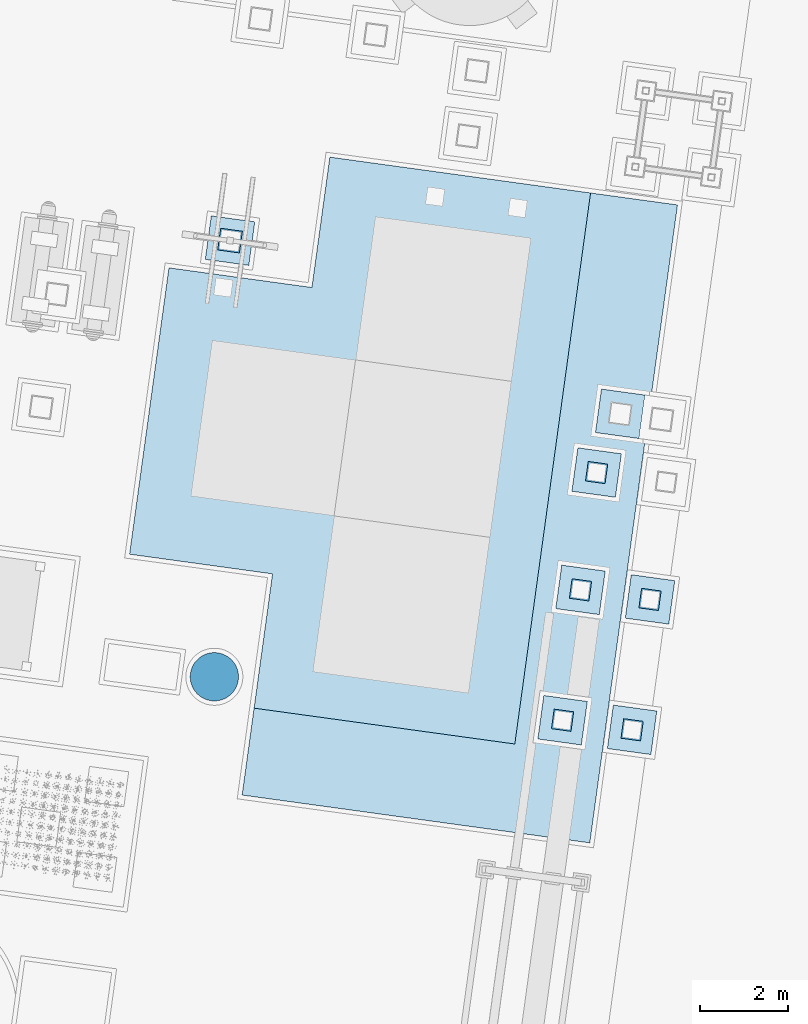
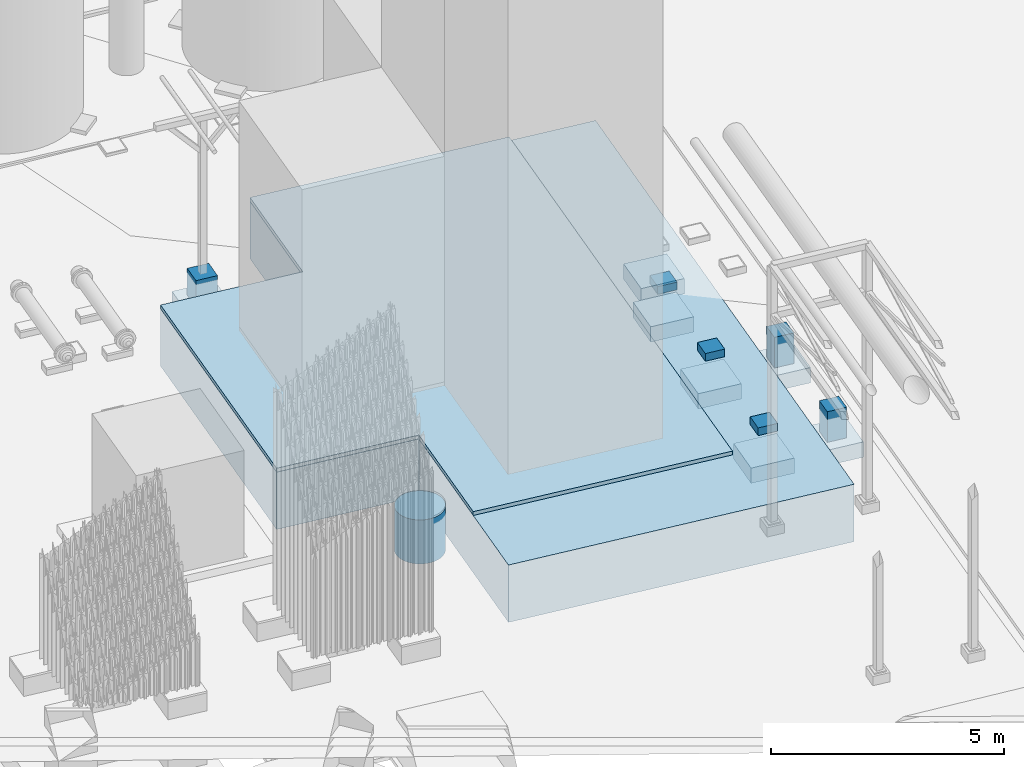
# Not in any storey, part 4 of 75: 16 footings.
"""IFC4 model written with IfcOpenShell, lengths in metres."""

from ifc_helpers import new_model, si_unit, direction, origin, origin_with_axes, place, context, subcontext, project, spatial, triangles, material, element, save


model = new_model("IFC4")

# Units and contexts
model_context = context("Model", 3, precision=1e-05, world=origin_with_axes(), true_north=direction((0.0, 1.0)))
body_context = subcontext(model_context, "Body", "Model", "MODEL_VIEW")
ifc_project = project(units=[si_unit("AREAUNIT", "SQUARE_METRE"), si_unit("VOLUMEUNIT", "CUBIC_METRE"), si_unit("LENGTHUNIT", "METRE")], contexts=[model_context])

# Site
site_placement = place(None, origin_with_axes())
site = spatial("IfcSite", under=ifc_project, at=site_placement, Name="Parcela industrial Jinhong")

# Footings
ifc_material_1 = material(Name="Hormigón HA-40", Category="Material documentado")
footing_1_placement = place(None, origin())
element("IfcFooting", 1, at=footing_1_placement, inside=site, material=ifc_material_1, Name="Cimentación de las cajas frías · cuerpo de hormigón", PredefinedType="PAD_FOOTING", context=body_context, shape_type="Tessellation", body=[
    triangles([(52.23586, 41.442184, -0.4), (48.97652, 41.890295, -0.4), (49.874104, 48.418882, -0.4), (53.133444, 47.970771, -0.4), (53.542055, 50.942813, -0.4), (59.48614, 50.12559, -0.4), (61.467502, 49.853182, -0.4), (59.468028, 35.309988, -0.4), (57.486667, 35.582395, -0.4), (51.542582, 36.399619, -0.4), (51.81499, 38.380981, -0.4), (52.23586, 41.442184, 1.1), (48.97652, 41.890295, 1.1), (49.874104, 48.418882, 1.1), (53.133444, 47.970771, 1.1), (53.542055, 50.942813, 1.1), (59.48614, 50.12559, 1.1), (61.467502, 49.853182, 1.1), (59.468028, 35.309988, 1.1), (57.486667, 35.582395, 1.1), (51.542582, 36.399619, 1.1), (51.81499, 38.380981, 1.1)], [[1, 2, 3], [4, 5, 6], [1, 7, 8], [9, 10, 11], [1, 3, 4], [7, 1, 6], [1, 9, 11], [6, 1, 4], [9, 1, 8], [14, 13, 12], [17, 16, 15], [19, 18, 12], [22, 21, 20], [15, 14, 12], [17, 12, 18], [22, 20, 12], [15, 12, 17], [19, 12, 20], [12, 13, 1], [1, 13, 2], [13, 14, 2], [2, 14, 3], [14, 15, 3], [3, 15, 4], [15, 16, 4], [4, 16, 5], [16, 17, 5], [5, 17, 6], [17, 18, 6], [6, 18, 7], [18, 19, 7], [7, 19, 8], [19, 20, 8], [8, 20, 9], [20, 21, 9], [9, 21, 10], [22, 12, 11], [11, 12, 1], [21, 22, 10], [10, 22, 11]], closed=True),
])
footing_2_placement = place(None, origin())
element("IfcFooting", 2, at=footing_2_placement, inside=site, material=ifc_material_1, Name="Cimentación de las cajas frías · plataforma irregular elevada 100 mm", PredefinedType="PAD_FOOTING", context=body_context, shape_type="Tessellation", body=[
    triangles([(52.23586, 41.442184, 1.1), (48.97652, 41.890295, 1.1), (49.874104, 48.418882, 1.1), (53.133444, 47.970771, 1.1), (53.542055, 50.942813, 1.1), (59.48614, 50.12559, 1.1), (57.759074, 37.563757, 1.1), (51.81499, 38.380981, 1.1), (52.23586, 41.442184, 1.2), (48.97652, 41.890295, 1.2), (49.874104, 48.418882, 1.2), (53.133444, 47.970771, 1.2), (53.542055, 50.942813, 1.2), (59.48614, 50.12559, 1.2), (57.759074, 37.563757, 1.2), (51.81499, 38.380981, 1.2)], [[1, 2, 3], [4, 5, 6], [1, 7, 8], [1, 3, 4], [7, 1, 6], [1, 4, 6], [11, 10, 9], [14, 13, 12], [16, 15, 9], [12, 11, 9], [14, 9, 15], [14, 12, 9], [9, 10, 1], [1, 10, 2], [10, 11, 2], [2, 11, 3], [11, 12, 3], [3, 12, 4], [12, 13, 4], [4, 13, 5], [13, 14, 5], [5, 14, 6], [14, 15, 6], [6, 15, 7], [16, 9, 8], [8, 9, 1], [15, 16, 7], [7, 16, 8]], closed=True),
])
footing_3_placement = place(None, origin())
element("IfcFooting", 3, at=footing_3_placement, inside=site, Name="Cimentación del evaporador de residuos · apoyo circular · cuerpo de hormigón", PredefinedType="PAD_FOOTING", context=body_context, shape_type="Tessellation", body=[
    triangles([(51.451135, 39.003477, 0.1), (51.447812, 38.985789, 0.1), (51.443912, 38.968218, 0.1), (51.428794, 38.916405, 0.1), (51.439438, 38.950785, 0.1), (51.434398, 38.933508, 0.1), (51.422634, 38.899494, 0.1), (51.400882, 38.850096, 0.1), (51.415923, 38.882793, 0.1), (51.40867, 38.866322, 0.1), (51.383734, 38.818453, 0.1), (51.392567, 38.834134, 0.1), (51.364554, 38.787999, 0.1), (51.374394, 38.803069, 0.1), (51.354226, 38.773258, 0.1), (51.343423, 38.758863, 0.1), (51.332154, 38.74483, 0.1), (51.320431, 38.731174, 0.1), (51.308268, 38.717908, 0.1), (51.295678, 38.705047, 0.1), (51.282673, 38.692604, 0.1), (51.269269, 38.680594, 0.1), (51.255479, 38.66903, 0.1), (51.211943, 38.637126, 0.1), (51.241317, 38.657922, 0.1), (51.2268, 38.647283, 0.1), (51.165488, 38.609643, 0.1), (51.196761, 38.62746, 0.1), (51.18127, 38.618295, 0.1), (51.116566, 38.586846, 0.1), (51.149432, 38.601511, 0.1), (51.133119, 38.593909, 0.1), (51.048309, 38.564111, 0.1), (51.099789, 38.580327, 0.1), (51.082808, 38.574361, 0.1), (51.065643, 38.568953, 0.1), (51.013211, 38.556139, 0.1), (51.030825, 38.559838, 0.1), (50.977668, 38.55048, 0.1), (50.995486, 38.553018, 0.1), (50.94183, 38.547158, 0.1), (50.959777, 38.548525, 0.1), (50.851959, 38.549143, 0.1), (50.92385, 38.546378, 0.1), (50.887859, 38.546584, 0.1), (50.905853, 38.546186, 0.1), (50.869888, 38.54757, 0.1), (50.834092, 38.551302, 0.1), (50.816304, 38.554045, 0.1), (50.798616, 38.557368, 0.1), (50.781045, 38.561269, 0.1), (50.763612, 38.565742, 0.1), (50.746334, 38.570783, 0.1), (50.662923, 38.604299, 0.1), (50.712321, 38.582547, 0.1), (50.69562, 38.589257, 0.1), (50.679148, 38.59651, 0.1), (50.63128, 38.621446, 0.1), (50.646961, 38.612613, 0.1), (50.586086, 38.650954, 0.1), (50.615896, 38.630787, 0.1), (50.600825, 38.640626, 0.1), (50.544, 38.684749, 0.1), (50.571691, 38.661758, 0.1), (50.557657, 38.673027, 0.1), (50.530735, 38.696912, 0.1), (50.493422, 38.735912, 0.1), (50.517873, 38.709502, 0.1), (50.505431, 38.722507, 0.1), (50.470749, 38.763864, 0.1), (50.481856, 38.749702, 0.1), (50.449953, 38.793238, 0.1), (50.46011, 38.778381, 0.1), (50.42247, 38.839692, 0.1), (50.440286, 38.80842, 0.1), (50.431122, 38.823911, 0.1), (50.414338, 38.855748, 0.1), (50.406737, 38.872062, 0.1), (50.387188, 38.922372, 0.1), (50.399673, 38.888615, 0.1), (50.393154, 38.905391, 0.1), (50.376938, 38.956873, 0.1), (50.365846, 39.009695, 0.1), (50.381781, 38.939538, 0.1), (50.368966, 38.99197, 0.1), (50.372664, 38.974356, 0.1), (50.359985, 39.06335, 0.1), (50.363307, 39.027513, 0.1), (50.361352, 39.045405, 0.1), (50.36413, 39.171089, 0.1), (50.359204, 39.081331, 0.1), (50.35941, 39.117321, 0.1), (50.359013, 39.099328, 0.1), (50.360396, 39.135292, 0.1), (50.36197, 39.153221, 0.1), (50.370195, 39.206565, 0.1), (50.366872, 39.188877, 0.1), (50.374096, 39.224135, 0.1), (50.378569, 39.241569, 0.1), (50.38361, 39.258846, 0.1), (50.402085, 39.30956, 0.1), (50.389214, 39.275949, 0.1), (50.395373, 39.29286, 0.1), (51.217182, 39.551727, 0.1), (50.606065, 39.555228, 0.1), (50.434273, 39.373901, 0.1), (50.417125, 39.342257, 0.1), (50.42544, 39.35822, 0.1), (50.409338, 39.326032, 0.1), (50.443614, 39.389285, 0.1), (50.474585, 39.433489, 0.1), (50.453454, 39.404355, 0.1), (50.463781, 39.419096, 0.1), (50.485854, 39.447523, 0.1), (50.497576, 39.46118, 0.1), (50.509739, 39.474446, 0.1), (50.522329, 39.487307, 0.1), (50.535334, 39.49975, 0.1), (50.57669, 39.534432, 0.1), (50.548739, 39.51176, 0.1), (50.562528, 39.523324, 0.1), (50.591208, 39.545071, 0.1), (50.636737, 39.574059, 0.1), (50.621247, 39.564894, 0.1), (50.652519, 39.582711, 0.1), (50.701443, 39.605508, 0.1), (50.668575, 39.590843, 0.1), (50.684888, 39.598445, 0.1), (50.735199, 39.617992, 0.1), (50.718219, 39.612026, 0.1), (50.769699, 39.628243, 0.1), (50.752365, 39.623401, 0.1), (50.804796, 39.636215, 0.1), (50.787182, 39.632516, 0.1), (50.840339, 39.641874, 0.1), (50.822521, 39.639335, 0.1), (50.858231, 39.643829, 0.1), (50.983916, 39.641051, 0.1), (50.894158, 39.645976, 0.1), (50.930148, 39.64577, 0.1), (50.912154, 39.646168, 0.1), (50.948119, 39.644784, 0.1), (50.966048, 39.643211, 0.1), (51.019392, 39.634985, 0.1), (51.001703, 39.638309, 0.1), (51.036962, 39.631085, 0.1), (51.054395, 39.626612, 0.1), (51.071673, 39.621571, 0.1), (51.122387, 39.603097, 0.1), (51.088776, 39.615967, 0.1), (51.105687, 39.609807, 0.1), (51.155084, 39.588055, 0.1), (51.138859, 39.595844, 0.1), (51.186728, 39.570907, 0.1), (51.171046, 39.579741, 0.1), (51.202113, 39.561567, 0.1), (51.246317, 39.530595, 0.1), (51.231923, 39.5414, 0.1), (51.274007, 39.507605, 0.1), (51.26035, 39.519327, 0.1), (51.287273, 39.495442, 0.1), (51.300134, 39.482851, 0.1), (51.312576, 39.469847, 0.1), (51.347259, 39.42849, 0.1), (51.324586, 39.456442, 0.1), (51.336151, 39.442652, 0.1), (51.377721, 39.383934, 0.1), (51.357897, 39.413973, 0.1), (51.368056, 39.399116, 0.1), (51.386885, 39.368443, 0.1), (51.395537, 39.352662, 0.1), (51.418335, 39.303738, 0.1), (51.403669, 39.336606, 0.1), (51.411271, 39.320292, 0.1), (51.424853, 39.286963, 0.1), (51.441069, 39.235481, 0.1), (51.43082, 39.269982, 0.1), (51.436227, 39.252815, 0.1), (51.449041, 39.200384, 0.1), (51.445343, 39.217998, 0.1), (51.454701, 39.164841, 0.1), (51.452162, 39.182659, 0.1), (51.456655, 39.146949, 0.1), (51.458994, 39.093026, 0.1), (51.458024, 39.129004, 0.1), (51.458804, 39.111023, 0.1), (51.456037, 39.039133, 0.1), (51.458597, 39.075033, 0.1), (51.457611, 39.057061, 0.1), (51.453878, 39.021264, 0.1), (50.729231, 38.576387, 0.1), (50.876177, 39.645196, 0.1), (51.451135, 39.003477, 1.25), (51.447812, 38.985789, 1.25), (51.443912, 38.968218, 1.25), (51.428794, 38.916405, 1.25), (51.439438, 38.950785, 1.25), (51.434398, 38.933508, 1.25), (51.422634, 38.899494, 1.25), (51.400882, 38.850096, 1.25), (51.415923, 38.882793, 1.25), (51.40867, 38.866322, 1.25), (51.383734, 38.818453, 1.25), (51.392567, 38.834134, 1.25), (51.364554, 38.787999, 1.25), (51.374394, 38.803069, 1.25), (51.354226, 38.773258, 1.25), (51.343423, 38.758863, 1.25), (51.332154, 38.74483, 1.25), (51.320431, 38.731174, 1.25), (51.308268, 38.717908, 1.25), (51.295678, 38.705047, 1.25), (51.282673, 38.692604, 1.25), (51.269269, 38.680594, 1.25), (51.255479, 38.66903, 1.25), (51.211943, 38.637126, 1.25), (51.241317, 38.657922, 1.25), (51.2268, 38.647283, 1.25), (51.165488, 38.609643, 1.25), (51.196761, 38.62746, 1.25), (51.18127, 38.618295, 1.25), (51.116566, 38.586846, 1.25), (51.149432, 38.601511, 1.25), (51.133119, 38.593909, 1.25), (51.048309, 38.564111, 1.25), (51.099789, 38.580327, 1.25), (51.082808, 38.574361, 1.25), (51.065643, 38.568953, 1.25), (51.013211, 38.556139, 1.25), (51.030825, 38.559838, 1.25), (50.977668, 38.55048, 1.25), (50.995486, 38.553018, 1.25), (50.94183, 38.547158, 1.25), (50.959777, 38.548525, 1.25), (50.851959, 38.549143, 1.25), (50.92385, 38.546378, 1.25), (50.887859, 38.546584, 1.25), (50.905853, 38.546186, 1.25), (50.869888, 38.54757, 1.25), (50.834092, 38.551302, 1.25), (50.816304, 38.554045, 1.25), (50.798616, 38.557368, 1.25), (50.781045, 38.561269, 1.25), (50.763612, 38.565742, 1.25), (50.746334, 38.570783, 1.25), (50.662923, 38.604299, 1.25), (50.712321, 38.582547, 1.25), (50.69562, 38.589257, 1.25), (50.679148, 38.59651, 1.25), (50.63128, 38.621446, 1.25), (50.646961, 38.612613, 1.25), (50.586086, 38.650954, 1.25), (50.615896, 38.630787, 1.25), (50.600825, 38.640626, 1.25), (50.544, 38.684749, 1.25), (50.571691, 38.661758, 1.25), (50.557657, 38.673027, 1.25), (50.530735, 38.696912, 1.25), (50.493422, 38.735912, 1.25), (50.517873, 38.709502, 1.25), (50.505431, 38.722507, 1.25), (50.470749, 38.763864, 1.25), (50.481856, 38.749702, 1.25), (50.449953, 38.793238, 1.25), (50.46011, 38.778381, 1.25), (50.42247, 38.839692, 1.25), (50.440286, 38.80842, 1.25), (50.431122, 38.823911, 1.25), (50.414338, 38.855748, 1.25), (50.406737, 38.872062, 1.25), (50.387188, 38.922372, 1.25), (50.399673, 38.888615, 1.25), (50.393154, 38.905391, 1.25), (50.376938, 38.956873, 1.25), (50.365846, 39.009695, 1.25), (50.381781, 38.939538, 1.25), (50.368966, 38.99197, 1.25), (50.372664, 38.974356, 1.25), (50.359985, 39.06335, 1.25), (50.363307, 39.027513, 1.25), (50.361352, 39.045405, 1.25), (50.36413, 39.171089, 1.25), (50.359204, 39.081331, 1.25), (50.35941, 39.117321, 1.25), (50.359013, 39.099328, 1.25), (50.360396, 39.135292, 1.25), (50.36197, 39.153221, 1.25), (50.370195, 39.206565, 1.25), (50.366872, 39.188877, 1.25), (50.374096, 39.224135, 1.25), (50.378569, 39.241569, 1.25), (50.38361, 39.258846, 1.25), (50.402085, 39.30956, 1.25), (50.389214, 39.275949, 1.25), (50.395373, 39.29286, 1.25), (51.217182, 39.551727, 1.25), (50.606065, 39.555228, 1.25), (50.434273, 39.373901, 1.25), (50.417125, 39.342257, 1.25), (50.42544, 39.35822, 1.25), (50.409338, 39.326032, 1.25), (50.443614, 39.389285, 1.25), (50.474585, 39.433489, 1.25), (50.453454, 39.404355, 1.25), (50.463781, 39.419096, 1.25), (50.485854, 39.447523, 1.25), (50.497576, 39.46118, 1.25), (50.509739, 39.474446, 1.25), (50.522329, 39.487307, 1.25), (50.535334, 39.49975, 1.25), (50.57669, 39.534432, 1.25), (50.548739, 39.51176, 1.25), (50.562528, 39.523324, 1.25), (50.591208, 39.545071, 1.25), (50.636737, 39.574059, 1.25), (50.621247, 39.564894, 1.25), (50.652519, 39.582711, 1.25), (50.701443, 39.605508, 1.25), (50.668575, 39.590843, 1.25), (50.684888, 39.598445, 1.25), (50.735199, 39.617992, 1.25), (50.718219, 39.612026, 1.25), (50.769699, 39.628243, 1.25), (50.752365, 39.623401, 1.25), (50.804796, 39.636215, 1.25), (50.787182, 39.632516, 1.25), (50.840339, 39.641874, 1.25), (50.822521, 39.639335, 1.25), (50.858231, 39.643829, 1.25), (50.983916, 39.641051, 1.25), (50.894158, 39.645976, 1.25), (50.930148, 39.64577, 1.25), (50.912154, 39.646168, 1.25), (50.948119, 39.644784, 1.25), (50.966048, 39.643211, 1.25), (51.019392, 39.634985, 1.25), (51.001703, 39.638309, 1.25), (51.036962, 39.631085, 1.25), (51.054395, 39.626612, 1.25), (51.071673, 39.621571, 1.25), (51.122387, 39.603097, 1.25), (51.088776, 39.615967, 1.25), (51.105687, 39.609807, 1.25), (51.155084, 39.588055, 1.25), (51.138859, 39.595844, 1.25), (51.186728, 39.570907, 1.25), (51.171046, 39.579741, 1.25), (51.202113, 39.561567, 1.25), (51.246317, 39.530595, 1.25), (51.231923, 39.5414, 1.25), (51.274007, 39.507605, 1.25), (51.26035, 39.519327, 1.25), (51.287273, 39.495442, 1.25), (51.300134, 39.482851, 1.25), (51.312576, 39.469847, 1.25), (51.347259, 39.42849, 1.25), (51.324586, 39.456442, 1.25), (51.336151, 39.442652, 1.25), (51.377721, 39.383934, 1.25), (51.357897, 39.413973, 1.25), (51.368056, 39.399116, 1.25), (51.386885, 39.368443, 1.25), (51.395537, 39.352662, 1.25), (51.418335, 39.303738, 1.25), (51.403669, 39.336606, 1.25), (51.411271, 39.320292, 1.25), (51.424853, 39.286963, 1.25), (51.441069, 39.235481, 1.25), (51.43082, 39.269982, 1.25), (51.436227, 39.252815, 1.25), (51.449041, 39.200384, 1.25), (51.445343, 39.217998, 1.25), (51.454701, 39.164841, 1.25), (51.452162, 39.182659, 1.25), (51.456655, 39.146949, 1.25), (51.458994, 39.093026, 1.25), (51.458024, 39.129004, 1.25), (51.458804, 39.111023, 1.25), (51.456037, 39.039133, 1.25), (51.458597, 39.075033, 1.25), (51.457611, 39.057061, 1.25), (51.453878, 39.021264, 1.25), (50.729231, 38.576387, 1.25), (50.876177, 39.645196, 1.25)], [[1, 2, 3], [4, 5, 6], [5, 4, 7], [8, 9, 10], [11, 8, 12], [13, 11, 14], [11, 13, 15], [15, 16, 17], [15, 18, 19], [19, 20, 21], [21, 22, 23], [24, 25, 26], [27, 24, 28], [28, 29, 27], [30, 31, 32], [33, 30, 34], [33, 35, 36], [37, 33, 38], [39, 37, 40], [41, 39, 42], [43, 44, 45], [44, 46, 45], [45, 47, 43], [43, 48, 49], [49, 50, 51], [51, 52, 53], [54, 55, 56], [54, 56, 57], [58, 54, 59], [60, 58, 61], [61, 62, 60], [63, 64, 65], [64, 63, 66], [67, 68, 69], [70, 67, 71], [72, 70, 73], [74, 72, 75], [75, 76, 74], [74, 77, 78], [79, 80, 81], [82, 83, 84], [85, 82, 86], [82, 85, 83], [87, 88, 89], [90, 91, 92], [91, 93, 92], [90, 94, 95], [96, 90, 97], [90, 96, 98], [98, 99, 100], [101, 102, 103], [104, 67, 105], [106, 107, 108], [109, 106, 110], [111, 112, 113], [105, 111, 114], [114, 115, 116], [116, 117, 118], [119, 120, 121], [105, 119, 122], [123, 105, 124], [105, 123, 125], [126, 127, 128], [129, 126, 130], [131, 129, 132], [133, 131, 134], [135, 133, 136], [133, 135, 137], [138, 139, 140], [139, 141, 140], [138, 142, 143], [144, 138, 145], [138, 144, 146], [146, 147, 148], [149, 150, 151], [152, 149, 153], [154, 152, 155], [104, 154, 156], [157, 104, 158], [159, 157, 160], [157, 159, 161], [161, 162, 163], [164, 165, 166], [167, 164, 168], [168, 169, 167], [167, 170, 171], [172, 173, 174], [171, 172, 175], [176, 177, 178], [179, 176, 180], [181, 179, 182], [179, 181, 183], [184, 185, 186], [187, 184, 188], [188, 189, 187], [187, 190, 1], [5, 1, 3], [5, 8, 11], [19, 11, 15], [18, 15, 17], [25, 19, 21], [25, 21, 23], [41, 25, 27], [30, 27, 31], [33, 34, 35], [39, 41, 37], [53, 43, 49], [43, 53, 44], [49, 51, 53], [55, 54, 191], [191, 54, 58], [58, 60, 64], [68, 67, 66], [84, 78, 79], [67, 74, 78], [80, 79, 78], [88, 84, 83], [101, 84, 88], [91, 90, 87], [94, 90, 92], [90, 98, 100], [90, 102, 101], [106, 109, 107], [111, 110, 112], [120, 116, 118], [116, 120, 119], [126, 105, 125], [126, 125, 127], [192, 131, 133], [192, 133, 137], [139, 138, 192], [142, 138, 140], [138, 146, 148], [149, 152, 150], [104, 152, 154], [161, 104, 157], [165, 161, 163], [161, 165, 164], [164, 167, 171], [172, 171, 173], [177, 176, 175], [184, 179, 183], [185, 184, 183], [184, 187, 1], [8, 5, 7], [25, 11, 19], [27, 25, 24], [41, 27, 30], [30, 33, 37], [53, 41, 44], [41, 53, 191], [191, 64, 41], [110, 84, 101], [74, 70, 72], [78, 84, 67], [101, 88, 90], [102, 90, 100], [105, 110, 111], [119, 105, 116], [104, 105, 126], [192, 129, 131], [126, 192, 138], [138, 148, 150], [150, 152, 104], [176, 164, 171], [176, 171, 175], [184, 176, 179], [5, 184, 1], [9, 8, 7], [67, 41, 64], [30, 37, 41], [64, 191, 58], [74, 67, 70], [90, 88, 87], [110, 101, 109], [105, 114, 116], [164, 104, 161], [138, 150, 104], [104, 164, 176], [11, 184, 5], [41, 67, 11], [84, 105, 67], [105, 84, 110], [192, 126, 129], [126, 138, 104], [41, 11, 25], [11, 104, 176], [67, 64, 66], [184, 11, 176], [11, 67, 104], [195, 194, 193], [198, 197, 196], [199, 196, 197], [202, 201, 200], [204, 200, 203], [206, 203, 205], [207, 205, 203], [209, 208, 207], [211, 210, 207], [213, 212, 211], [215, 214, 213], [218, 217, 216], [220, 216, 219], [219, 221, 220], [224, 223, 222], [226, 222, 225], [228, 227, 225], [230, 225, 229], [232, 229, 231], [234, 231, 233], [237, 236, 235], [237, 238, 236], [235, 239, 237], [241, 240, 235], [243, 242, 241], [245, 244, 243], [248, 247, 246], [249, 248, 246], [251, 246, 250], [253, 250, 252], [252, 254, 253], [257, 256, 255], [258, 255, 256], [261, 260, 259], [263, 259, 262], [265, 262, 264], [267, 264, 266], [266, 268, 267], [270, 269, 266], [273, 272, 271], [276, 275, 274], [278, 274, 277], [275, 277, 274], [281, 280, 279], [284, 283, 282], [284, 285, 283], [287, 286, 282], [289, 282, 288], [290, 288, 282], [292, 291, 290], [295, 294, 293], [297, 259, 296], [300, 299, 298], [302, 298, 301], [305, 304, 303], [306, 303, 297], [308, 307, 306], [310, 309, 308], [313, 312, 311], [314, 311, 297], [316, 297, 315], [317, 315, 297], [320, 319, 318], [322, 318, 321], [324, 321, 323], [326, 323, 325], [328, 325, 327], [329, 327, 325], [332, 331, 330], [332, 333, 331], [335, 334, 330], [337, 330, 336], [338, 336, 330], [340, 339, 338], [343, 342, 341], [345, 341, 344], [347, 344, 346], [348, 346, 296], [350, 296, 349], [352, 349, 351], [353, 351, 349], [355, 354, 353], [358, 357, 356], [360, 356, 359], [359, 361, 360], [363, 362, 359], [366, 365, 364], [367, 364, 363], [370, 369, 368], [372, 368, 371], [374, 371, 373], [375, 373, 371], [378, 377, 376], [380, 376, 379], [379, 381, 380], [193, 382, 379], [195, 193, 197], [203, 200, 197], [207, 203, 211], [209, 207, 210], [213, 211, 217], [215, 213, 217], [219, 217, 233], [223, 219, 222], [227, 226, 225], [229, 233, 231], [241, 235, 245], [236, 245, 235], [245, 243, 241], [383, 246, 247], [250, 246, 383], [256, 252, 250], [258, 259, 260], [271, 270, 276], [270, 266, 259], [270, 271, 272], [275, 276, 280], [280, 276, 293], [279, 282, 283], [284, 282, 286], [292, 290, 282], [293, 294, 282], [299, 301, 298], [304, 302, 303], [310, 308, 312], [311, 312, 308], [317, 297, 318], [319, 317, 318], [325, 323, 384], [329, 325, 384], [384, 330, 331], [332, 330, 334], [340, 338, 330], [342, 344, 341], [346, 344, 296], [349, 296, 353], [355, 353, 357], [356, 357, 353], [363, 359, 356], [365, 363, 364], [367, 368, 369], [375, 371, 376], [375, 376, 377], [193, 379, 376], [199, 197, 200], [211, 203, 217], [216, 217, 219], [222, 219, 233], [229, 225, 222], [236, 233, 245], [383, 245, 233], [233, 256, 383], [293, 276, 302], [264, 262, 266], [259, 276, 270], [282, 280, 293], [292, 282, 294], [303, 302, 297], [308, 297, 311], [318, 297, 296], [323, 321, 384], [330, 384, 318], [342, 340, 330], [296, 344, 342], [363, 356, 368], [367, 363, 368], [371, 368, 376], [193, 376, 197], [199, 200, 201], [256, 233, 259], [233, 229, 222], [250, 383, 256], [262, 259, 266], [279, 280, 282], [301, 293, 302], [308, 306, 297], [353, 296, 356], [296, 342, 330], [368, 356, 296], [197, 376, 203], [203, 259, 233], [259, 297, 276], [302, 276, 297], [321, 318, 384], [296, 330, 318], [217, 203, 233], [368, 296, 203], [258, 256, 259], [368, 203, 376], [296, 259, 203], [193, 194, 1], [1, 194, 2], [194, 195, 2], [2, 195, 3], [195, 197, 3], [3, 197, 5], [198, 196, 6], [6, 196, 4], [197, 198, 5], [5, 198, 6], [196, 199, 4], [4, 199, 7], [199, 201, 7], [7, 201, 9], [202, 200, 10], [10, 200, 8], [201, 202, 9], [9, 202, 10], [200, 204, 8], [8, 204, 12], [204, 203, 12], [12, 203, 11], [203, 206, 11], [11, 206, 14], [206, 205, 14], [14, 205, 13], [205, 207, 13], [13, 207, 15], [207, 208, 15], [15, 208, 16], [208, 209, 16], [16, 209, 17], [209, 210, 17], [17, 210, 18], [210, 211, 18], [18, 211, 19], [211, 212, 19], [19, 212, 20], [212, 213, 20], [20, 213, 21], [213, 214, 21], [21, 214, 22], [214, 215, 22], [22, 215, 23], [215, 217, 23], [23, 217, 25], [218, 216, 26], [26, 216, 24], [217, 218, 25], [25, 218, 26], [216, 220, 24], [24, 220, 28], [221, 219, 29], [29, 219, 27], [220, 221, 28], [28, 221, 29], [219, 223, 27], [27, 223, 31], [224, 222, 32], [32, 222, 30], [223, 224, 31], [31, 224, 32], [222, 226, 30], [30, 226, 34], [226, 227, 34], [34, 227, 35], [228, 225, 36], [36, 225, 33], [227, 228, 35], [35, 228, 36], [225, 230, 33], [33, 230, 38], [230, 229, 38], [38, 229, 37], [229, 232, 37], [37, 232, 40], [232, 231, 40], [40, 231, 39], [231, 234, 39], [39, 234, 42], [234, 233, 42], [42, 233, 41], [233, 236, 41], [41, 236, 44], [236, 238, 44], [44, 238, 46], [238, 237, 46], [46, 237, 45], [239, 235, 47], [47, 235, 43], [237, 239, 45], [45, 239, 47], [235, 240, 43], [43, 240, 48], [240, 241, 48], [48, 241, 49], [241, 242, 49], [49, 242, 50], [242, 243, 50], [50, 243, 51], [243, 244, 51], [51, 244, 52], [244, 245, 52], [52, 245, 53], [247, 248, 55], [55, 248, 56], [249, 246, 57], [57, 246, 54], [248, 249, 56], [56, 249, 57], [246, 251, 54], [54, 251, 59], [251, 250, 59], [59, 250, 58], [250, 253, 58], [58, 253, 61], [254, 252, 62], [62, 252, 60], [253, 254, 61], [61, 254, 62], [252, 256, 60], [60, 256, 64], [257, 255, 65], [65, 255, 63], [256, 257, 64], [64, 257, 65], [255, 258, 63], [63, 258, 66], [258, 260, 66], [66, 260, 68], [261, 259, 69], [69, 259, 67], [260, 261, 68], [68, 261, 69], [259, 263, 67], [67, 263, 71], [263, 262, 71], [71, 262, 70], [262, 265, 70], [70, 265, 73], [265, 264, 73], [73, 264, 72], [264, 267, 72], [72, 267, 75], [268, 266, 76], [76, 266, 74], [267, 268, 75], [75, 268, 76], [266, 269, 74], [74, 269, 77], [269, 270, 77], [77, 270, 78], [270, 272, 78], [78, 272, 80], [273, 271, 81], [81, 271, 79], [272, 273, 80], [80, 273, 81], [271, 276, 79], [79, 276, 84], [276, 274, 84], [84, 274, 82], [277, 275, 85], [85, 275, 83], [274, 278, 82], [82, 278, 86], [278, 277, 86], [86, 277, 85], [275, 280, 83], [83, 280, 88], [281, 279, 89], [89, 279, 87], [280, 281, 88], [88, 281, 89], [279, 283, 87], [87, 283, 91], [283, 285, 91], [91, 285, 93], [285, 284, 93], [93, 284, 92], [284, 286, 92], [92, 286, 94], [287, 282, 95], [95, 282, 90], [286, 287, 94], [94, 287, 95], [282, 289, 90], [90, 289, 97], [289, 288, 97], [97, 288, 96], [288, 290, 96], [96, 290, 98], [290, 291, 98], [98, 291, 99], [291, 292, 99], [99, 292, 100], [292, 294, 100], [100, 294, 102], [295, 293, 103], [103, 293, 101], [294, 295, 102], [102, 295, 103], [300, 298, 108], [108, 298, 106], [299, 300, 107], [107, 300, 108], [293, 301, 101], [101, 301, 109], [301, 299, 109], [109, 299, 107], [298, 302, 106], [106, 302, 110], [302, 304, 110], [110, 304, 112], [305, 303, 113], [113, 303, 111], [304, 305, 112], [112, 305, 113], [303, 306, 111], [111, 306, 114], [306, 307, 114], [114, 307, 115], [307, 308, 115], [115, 308, 116], [308, 309, 116], [116, 309, 117], [309, 310, 117], [117, 310, 118], [310, 312, 118], [118, 312, 120], [313, 311, 121], [121, 311, 119], [312, 313, 120], [120, 313, 121], [314, 297, 122], [122, 297, 105], [311, 314, 119], [119, 314, 122], [297, 316, 105], [105, 316, 124], [316, 315, 124], [124, 315, 123], [315, 317, 123], [123, 317, 125], [317, 319, 125], [125, 319, 127], [320, 318, 128], [128, 318, 126], [319, 320, 127], [127, 320, 128], [318, 322, 126], [126, 322, 130], [322, 321, 130], [130, 321, 129], [321, 324, 129], [129, 324, 132], [324, 323, 132], [132, 323, 131], [323, 326, 131], [131, 326, 134], [326, 325, 134], [134, 325, 133], [325, 328, 133], [133, 328, 136], [328, 327, 136], [136, 327, 135], [327, 329, 135], [135, 329, 137], [331, 333, 139], [139, 333, 141], [333, 332, 141], [141, 332, 140], [332, 334, 140], [140, 334, 142], [335, 330, 143], [143, 330, 138], [334, 335, 142], [142, 335, 143], [330, 337, 138], [138, 337, 145], [337, 336, 145], [145, 336, 144], [336, 338, 144], [144, 338, 146], [338, 339, 146], [146, 339, 147], [339, 340, 147], [147, 340, 148], [340, 342, 148], [148, 342, 150], [343, 341, 151], [151, 341, 149], [342, 343, 150], [150, 343, 151], [341, 345, 149], [149, 345, 153], [345, 344, 153], [153, 344, 152], [344, 347, 152], [152, 347, 155], [347, 346, 155], [155, 346, 154], [348, 296, 156], [156, 296, 104], [346, 348, 154], [154, 348, 156], [296, 350, 104], [104, 350, 158], [350, 349, 158], [158, 349, 157], [349, 352, 157], [157, 352, 160], [352, 351, 160], [160, 351, 159], [351, 353, 159], [159, 353, 161], [353, 354, 161], [161, 354, 162], [354, 355, 162], [162, 355, 163], [355, 357, 163], [163, 357, 165], [358, 356, 166], [166, 356, 164], [357, 358, 165], [165, 358, 166], [356, 360, 164], [164, 360, 168], [361, 359, 169], [169, 359, 167], [360, 361, 168], [168, 361, 169], [359, 362, 167], [167, 362, 170], [362, 363, 170], [170, 363, 171], [363, 365, 171], [171, 365, 173], [366, 364, 174], [174, 364, 172], [365, 366, 173], [173, 366, 174], [364, 367, 172], [172, 367, 175], [367, 369, 175], [175, 369, 177], [370, 368, 178], [178, 368, 176], [369, 370, 177], [177, 370, 178], [368, 372, 176], [176, 372, 180], [372, 371, 180], [180, 371, 179], [371, 374, 179], [179, 374, 182], [374, 373, 182], [182, 373, 181], [373, 375, 181], [181, 375, 183], [375, 377, 183], [183, 377, 185], [378, 376, 186], [186, 376, 184], [377, 378, 185], [185, 378, 186], [376, 380, 184], [184, 380, 188], [381, 379, 189], [189, 379, 187], [380, 381, 188], [188, 381, 189], [382, 193, 190], [190, 193, 1], [379, 382, 187], [187, 382, 190], [245, 383, 53], [53, 383, 191], [383, 247, 191], [191, 247, 55], [329, 384, 137], [137, 384, 192], [384, 331, 192], [192, 331, 139]], closed=True),
])
ifc_material_2 = material(Name="Hormigón HA-30", Category="Material documentado")
footing_4_placement = place(None, origin())
element("IfcFooting", 4, at=footing_4_placement, inside=site, material=ifc_material_2, Name="Cimentación de soporte de tuberías C33 · cuerpo de hormigón", PredefinedType="PAD_FOOTING", context=body_context, shape_type="Tessellation", body=[
    triangles([(50.703204, 48.61276, 0.1), (50.839408, 49.603441, 0.1), (51.830089, 49.467237, 0.1), (51.693885, 48.476556, 0.1), (50.703204, 48.61276, 0.5), (50.839408, 49.603441, 0.5), (51.830089, 49.467237, 0.5), (51.693885, 48.476556, 0.5)], [[1, 2, 3], [3, 4, 1], [7, 6, 5], [5, 8, 7], [5, 6, 1], [1, 6, 2], [6, 7, 2], [2, 7, 3], [8, 5, 4], [4, 5, 1], [7, 8, 3], [3, 8, 4]], closed=True),
])
footing_5_placement = place(None, origin())
element("IfcFooting", 5, at=footing_5_placement, inside=site, material=ifc_material_2, Name="Cimentación de soporte de tuberías C33 · pedestal de hormigón", PredefinedType="PAD_FOOTING", context=body_context, shape_type="Tessellation", body=[
    triangles([(50.984925, 48.826379, 0.5), (51.053027, 49.32172, 0.5), (51.548368, 49.253618, 0.5), (51.480266, 48.758277, 0.5), (50.984925, 48.826379, 1.2), (51.053027, 49.32172, 1.2), (51.548368, 49.253618, 1.2), (51.480266, 48.758277, 1.2)], [[1, 2, 3], [3, 4, 1], [7, 6, 5], [5, 8, 7], [5, 6, 1], [1, 6, 2], [6, 7, 2], [2, 7, 3], [8, 5, 4], [4, 5, 1], [7, 8, 3], [3, 8, 4]], closed=True),
])
footing_6_placement = place(None, origin())
element("IfcFooting", 6, at=footing_6_placement, inside=site, material=ifc_material_2, Name="Cimentación de soporte de tuberías C34 · cuerpo de hormigón", PredefinedType="PAD_FOOTING", context=body_context, shape_type="Tessellation", body=[
    triangles([(59.598319, 44.664415, 0.1), (59.734523, 45.655096, 0.1), (60.725204, 45.518892, 0.1), (60.589, 44.528211, 0.1), (59.598319, 44.664415, 0.5), (59.734523, 45.655096, 0.5), (60.725204, 45.518892, 0.5), (60.589, 44.528211, 0.5)], [[1, 2, 3], [3, 4, 1], [7, 6, 5], [5, 8, 7], [5, 6, 1], [1, 6, 2], [6, 7, 2], [2, 7, 3], [8, 5, 4], [4, 5, 1], [7, 8, 3], [3, 8, 4]], closed=True),
])
footing_7_placement = place(None, origin())
element("IfcFooting", 7, at=footing_7_placement, inside=site, material=ifc_material_2, Name="Cimentación de soporte de tuberías C36 · cuerpo de hormigón", PredefinedType="PAD_FOOTING", context=body_context, shape_type="Tessellation", body=[
    triangles([(59.060895, 43.325133, 0.1), (59.197099, 44.315814, 0.1), (60.18778, 44.17961, 0.1), (60.051576, 43.188929, 0.1), (59.060895, 43.325133, 0.5), (59.197099, 44.315814, 0.5), (60.18778, 44.17961, 0.5), (60.051576, 43.188929, 0.5)], [[1, 2, 3], [3, 4, 1], [7, 6, 5], [5, 8, 7], [5, 6, 1], [1, 6, 2], [6, 7, 2], [2, 7, 3], [8, 5, 4], [4, 5, 1], [7, 8, 3], [3, 8, 4]], closed=True),
])
footing_8_placement = place(None, origin())
element("IfcFooting", 8, at=footing_8_placement, inside=site, material=ifc_material_2, Name="Cimentación de soporte de tuberías C36 · pedestal de hormigón", PredefinedType="PAD_FOOTING", context=body_context, shape_type="Tessellation", body=[
    triangles([(59.370789, 43.560114, 0.5), (59.432081, 44.005921, 0.5), (59.877887, 43.944629, 0.5), (59.816595, 43.498823, 0.5), (59.370789, 43.560114, 1.3), (59.432081, 44.005921, 1.3), (59.877887, 43.944629, 1.3), (59.816595, 43.498823, 1.3)], [[1, 2, 3], [3, 4, 1], [7, 6, 5], [5, 8, 7], [5, 6, 1], [1, 6, 2], [6, 7, 2], [2, 7, 3], [8, 5, 4], [4, 5, 1], [7, 8, 3], [3, 8, 4]], closed=True),
])
footing_9_placement = place(None, origin())
element("IfcFooting", 9, at=footing_9_placement, inside=site, material=ifc_material_2, Name="Cimentación de soporte de tuberías C38 · cuerpo de hormigón", PredefinedType="PAD_FOOTING", context=body_context, shape_type="Tessellation", body=[
    triangles([(58.693145, 40.650295, 0.1), (58.829349, 41.640976, 0.1), (59.82003, 41.504772, 0.1), (59.683826, 40.514091, 0.1), (58.693145, 40.650295, 0.5), (58.829349, 41.640976, 0.5), (59.82003, 41.504772, 0.5), (59.683826, 40.514091, 0.5)], [[1, 2, 3], [3, 4, 1], [7, 6, 5], [5, 8, 7], [5, 6, 1], [1, 6, 2], [6, 7, 2], [2, 7, 3], [8, 5, 4], [4, 5, 1], [7, 8, 3], [3, 8, 4]], closed=True),
])
footing_10_placement = place(None, origin())
element("IfcFooting", 10, at=footing_10_placement, inside=site, material=ifc_material_2, Name="Cimentación de soporte de tuberías C38 · pedestal de hormigón", PredefinedType="PAD_FOOTING", context=body_context, shape_type="Tessellation", body=[
    triangles([(59.003038, 40.885276, 0.5), (59.06433, 41.331082, 0.5), (59.510136, 41.269791, 0.5), (59.448845, 40.823984, 0.5), (59.003038, 40.885276, 1.3), (59.06433, 41.331082, 1.3), (59.510136, 41.269791, 1.3), (59.448845, 40.823984, 1.3)], [[1, 2, 3], [3, 4, 1], [7, 6, 5], [5, 8, 7], [5, 6, 1], [1, 6, 2], [6, 7, 2], [2, 7, 3], [8, 5, 4], [4, 5, 1], [7, 8, 3], [3, 8, 4]], closed=True),
])
footing_11_placement = place(None, origin())
element("IfcFooting", 11, at=footing_11_placement, inside=site, material=ifc_material_2, Name="Cimentación de soporte de tuberías C39 · cuerpo de hormigón", PredefinedType="PAD_FOOTING", context=body_context, shape_type="Tessellation", body=[
    triangles([(60.278234, 40.432369, 0.1), (60.414438, 41.42305, 0.1), (61.405119, 41.286846, 0.1), (61.268915, 40.296165, 0.1), (60.278234, 40.432369, 0.5), (60.414438, 41.42305, 0.5), (61.405119, 41.286846, 0.5), (61.268915, 40.296165, 0.5)], [[1, 2, 3], [3, 4, 1], [7, 6, 5], [5, 8, 7], [5, 6, 1], [1, 6, 2], [6, 7, 2], [2, 7, 3], [8, 5, 4], [4, 5, 1], [7, 8, 3], [3, 8, 4]], closed=True),
])
footing_12_placement = place(None, origin())
element("IfcFooting", 12, at=footing_12_placement, inside=site, material=ifc_material_2, Name="Cimentación de soporte de tuberías C39 · pedestal de hormigón", PredefinedType="PAD_FOOTING", context=body_context, shape_type="Tessellation", body=[
    triangles([(60.588127, 40.66735, 0.5), (60.649419, 41.113156, 0.5), (61.095226, 41.051864, 0.5), (61.033934, 40.606058, 0.5), (60.588127, 40.66735, 1.3), (60.649419, 41.113156, 1.3), (61.095226, 41.051864, 1.3), (61.033934, 40.606058, 1.3)], [[1, 2, 3], [3, 4, 1], [7, 6, 5], [5, 8, 7], [5, 6, 1], [1, 6, 2], [6, 7, 2], [2, 7, 3], [8, 5, 4], [4, 5, 1], [7, 8, 3], [3, 8, 4]], closed=True),
])
footing_13_placement = place(None, origin())
element("IfcFooting", 13, at=footing_13_placement, inside=site, material=ifc_material_2, Name="Cimentación de soporte de tuberías C40 · cuerpo de hormigón", PredefinedType="PAD_FOOTING", context=body_context, shape_type="Tessellation", body=[
    triangles([(58.284533, 37.678252, 0.1), (58.420737, 38.668933, 0.1), (59.411418, 38.532729, 0.1), (59.275214, 37.542049, 0.1), (58.284533, 37.678252, 0.5), (58.420737, 38.668933, 0.5), (59.411418, 38.532729, 0.5), (59.275214, 37.542049, 0.5)], [[1, 2, 3], [3, 4, 1], [7, 6, 5], [5, 8, 7], [5, 6, 1], [1, 6, 2], [6, 7, 2], [2, 7, 3], [8, 5, 4], [4, 5, 1], [7, 8, 3], [3, 8, 4]], closed=True),
])
footing_14_placement = place(None, origin())
element("IfcFooting", 14, at=footing_14_placement, inside=site, material=ifc_material_2, Name="Cimentación de soporte de tuberías C40 · pedestal de hormigón", PredefinedType="PAD_FOOTING", context=body_context, shape_type="Tessellation", body=[
    triangles([(58.594426, 37.913234, 0.5), (58.655718, 38.35904, 0.5), (59.101525, 38.297748, 0.5), (59.040233, 37.851942, 0.5), (58.594426, 37.913234, 1.3), (58.655718, 38.35904, 1.3), (59.101525, 38.297748, 1.3), (59.040233, 37.851942, 1.3)], [[1, 2, 3], [3, 4, 1], [7, 6, 5], [5, 8, 7], [5, 6, 1], [1, 6, 2], [6, 7, 2], [2, 7, 3], [8, 5, 4], [4, 5, 1], [7, 8, 3], [3, 8, 4]], closed=True),
])
footing_15_placement = place(None, origin())
element("IfcFooting", 15, at=footing_15_placement, inside=site, material=ifc_material_2, Name="Cimentación de soporte de tuberías C41 · cuerpo de hormigón", PredefinedType="PAD_FOOTING", context=body_context, shape_type="Tessellation", body=[
    triangles([(59.869622, 37.460326, 0.1), (60.005826, 38.451007, 0.1), (60.996507, 38.314803, 0.1), (60.860303, 37.324122, 0.1), (59.869622, 37.460326, 0.5), (60.005826, 38.451007, 0.5), (60.996507, 38.314803, 0.5), (60.860303, 37.324122, 0.5)], [[1, 2, 3], [3, 4, 1], [7, 6, 5], [5, 8, 7], [5, 6, 1], [1, 6, 2], [6, 7, 2], [2, 7, 3], [8, 5, 4], [4, 5, 1], [7, 8, 3], [3, 8, 4]], closed=True),
])
footing_16_placement = place(None, origin())
element("IfcFooting", 16, at=footing_16_placement, inside=site, material=ifc_material_2, Name="Cimentación de soporte de tuberías C41 · pedestal de hormigón", PredefinedType="PAD_FOOTING", context=body_context, shape_type="Tessellation", body=[
    triangles([(60.179516, 37.695307, 0.5), (60.240807, 38.141114, 0.5), (60.686614, 38.079822, 0.5), (60.625322, 37.634016, 0.5), (60.179516, 37.695307, 1.3), (60.240807, 38.141114, 1.3), (60.686614, 38.079822, 1.3), (60.625322, 37.634016, 1.3)], [[1, 2, 3], [3, 4, 1], [7, 6, 5], [5, 8, 7], [5, 6, 1], [1, 6, 2], [6, 7, 2], [2, 7, 3], [8, 5, 4], [4, 5, 1], [7, 8, 3], [3, 8, 4]], closed=True),
])

save(model, "model.ifc")
